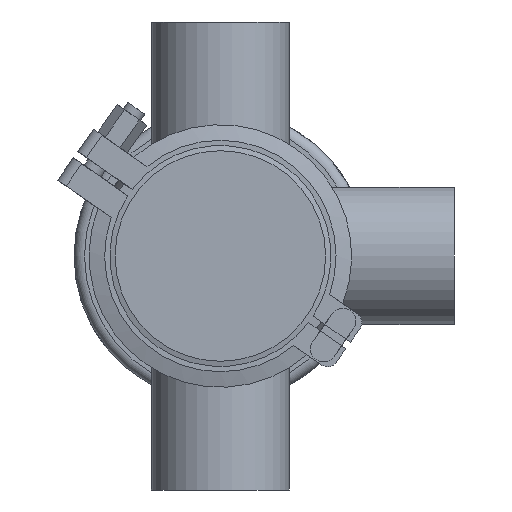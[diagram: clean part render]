
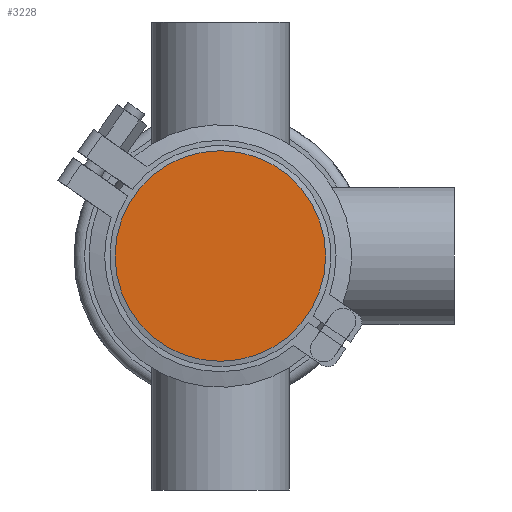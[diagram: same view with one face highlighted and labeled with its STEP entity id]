
A CAD part, front view. The second image highlights one B-rep face of the part: STEP entity #3228.
In plain terms, the highlighted planar face has unit normal (0, -1, 0).
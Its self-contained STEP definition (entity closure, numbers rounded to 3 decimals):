
#292 = CARTESIAN_POINT ( 'NONE',  ( 0., 0., 0. ) ) ;
#420 = AXIS2_PLACEMENT_3D ( 'NONE', #292, #7225, #3765 ) ;
#2153 = CIRCLE ( 'NONE', #420, 40.5 ) ;
#2314 = AXIS2_PLACEMENT_3D ( 'NONE', #16080, #16300, #4512 ) ;
#3228 = ADVANCED_FACE ( 'NONE', ( #17817 ), #13060, .T. ) ;
#3765 = DIRECTION ( 'NONE',  ( 0., 0., 1. ) ) ;
#4512 = DIRECTION ( 'NONE',  ( 0., 0., -1. ) ) ;
#7225 = DIRECTION ( 'NONE',  ( 0., 1., 0. ) ) ;
#9551 = CARTESIAN_POINT ( 'NONE',  ( 0., 0., 40.5 ) ) ;
#13060 = PLANE ( 'NONE',  #2314 ) ;
#14204 = EDGE_LOOP ( 'NONE', ( #18426 ) ) ;
#16080 = CARTESIAN_POINT ( 'NONE',  ( -40.5, 0., 0. ) ) ;
#16300 = DIRECTION ( 'NONE',  ( 0., -1., 0. ) ) ;
#17779 = VERTEX_POINT ( 'NONE', #9551 ) ;
#17817 = FACE_OUTER_BOUND ( 'NONE', #14204, .T. ) ;
#18426 = ORIENTED_EDGE ( 'NONE', *, *, #19304, .F. ) ;
#19304 = EDGE_CURVE ( 'NONE', #17779, #17779, #2153, .T. ) ;
